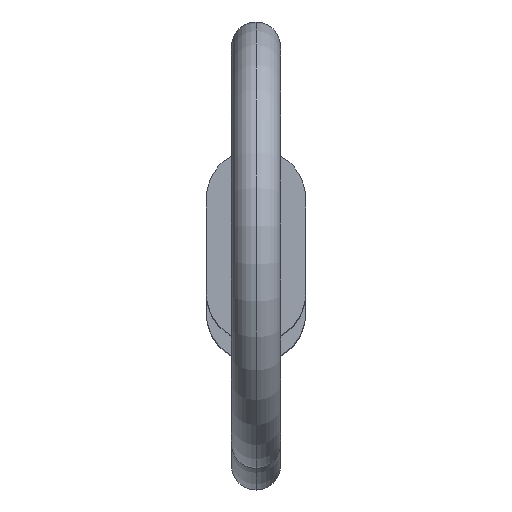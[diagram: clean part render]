
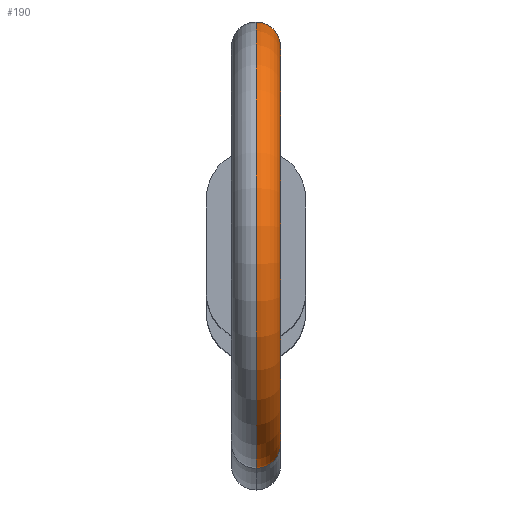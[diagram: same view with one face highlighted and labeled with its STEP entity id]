
A CAD part, top view. The second image highlights one B-rep face of the part: STEP entity #190.
In plain terms, the highlighted toroidal (fillet/blend) face has major radius 4.8 mm and minor radius 0.595 mm.
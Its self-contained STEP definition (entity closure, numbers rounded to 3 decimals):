
#12 = AXIS2_PLACEMENT_3D ( 'NONE', #166, #169, #898 ) ;
#38 = CIRCLE ( 'NONE', #176, 0.595 ) ;
#73 = VERTEX_POINT ( 'NONE', #731 ) ;
#82 = AXIS2_PLACEMENT_3D ( 'NONE', #574, #484, #869 ) ;
#83 = EDGE_CURVE ( 'NONE', #270, #73, #38, .T. ) ;
#87 = TOROIDAL_SURFACE ( 'NONE', #12, 4.8, 0.595 ) ;
#148 = ORIENTED_EDGE ( 'NONE', *, *, #83, .F. ) ;
#166 = CARTESIAN_POINT ( 'NONE',  ( 0., -1.133, 152.4 ) ) ;
#169 = DIRECTION ( 'NONE',  ( 1., 0., 0. ) ) ;
#176 = AXIS2_PLACEMENT_3D ( 'NONE', #217, #658, #282 ) ;
#190 = ADVANCED_FACE ( 'NONE', ( #473 ), #87, .T. ) ;
#217 = CARTESIAN_POINT ( 'NONE',  ( 0., -4.711, 149.2 ) ) ;
#225 = ORIENTED_EDGE ( 'NONE', *, *, #554, .T. ) ;
#232 = VERTEX_POINT ( 'NONE', #826 ) ;
#253 = DIRECTION ( 'NONE',  ( 0., 0., -1. ) ) ;
#270 = VERTEX_POINT ( 'NONE', #618 ) ;
#282 = DIRECTION ( 'NONE',  ( 1., 0., 0. ) ) ;
#326 = EDGE_CURVE ( 'NONE', #517, #73, #601, .T. ) ;
#448 = CIRCLE ( 'NONE', #568, 4.205 ) ;
#460 = DIRECTION ( 'NONE',  ( 0., 0.667, 0.745 ) ) ;
#464 = CIRCLE ( 'NONE', #602, 0.595 ) ;
#471 = CARTESIAN_POINT ( 'NONE',  ( 0., -1.133, 152.4 ) ) ;
#473 = FACE_OUTER_BOUND ( 'NONE', #569, .T. ) ;
#484 = DIRECTION ( 'NONE',  ( 1., 0., 0. ) ) ;
#492 = ORIENTED_EDGE ( 'NONE', *, *, #506, .F. ) ;
#506 = EDGE_CURVE ( 'NONE', #232, #270, #448, .T. ) ;
#517 = VERTEX_POINT ( 'NONE', #827 ) ;
#554 = EDGE_CURVE ( 'NONE', #232, #517, #464, .T. ) ;
#568 = AXIS2_PLACEMENT_3D ( 'NONE', #471, #680, #253 ) ;
#569 = EDGE_LOOP ( 'NONE', ( #225, #790, #148, #492 ) ) ;
#574 = CARTESIAN_POINT ( 'NONE',  ( 0., -1.133, 152.4 ) ) ;
#601 = CIRCLE ( 'NONE', #82, 5.395 ) ;
#602 = AXIS2_PLACEMENT_3D ( 'NONE', #900, #460, #908 ) ;
#618 = CARTESIAN_POINT ( 'NONE',  ( 0., -4.267, 149.597 ) ) ;
#658 = DIRECTION ( 'NONE',  ( 0., 0.667, -0.745 ) ) ;
#680 = DIRECTION ( 'NONE',  ( 1., 0., 0. ) ) ;
#731 = CARTESIAN_POINT ( 'NONE',  ( 0., -5.154, 148.803 ) ) ;
#790 = ORIENTED_EDGE ( 'NONE', *, *, #326, .T. ) ;
#826 = CARTESIAN_POINT ( 'NONE',  ( 0., 2.001, 149.597 ) ) ;
#827 = CARTESIAN_POINT ( 'NONE',  ( 0., 2.888, 148.803 ) ) ;
#869 = DIRECTION ( 'NONE',  ( 0., 0., -1. ) ) ;
#898 = DIRECTION ( 'NONE',  ( 0., 0., -1. ) ) ;
#900 = CARTESIAN_POINT ( 'NONE',  ( 0., 2.445, 149.2 ) ) ;
#908 = DIRECTION ( 'NONE',  ( 1., 0., 0. ) ) ;
